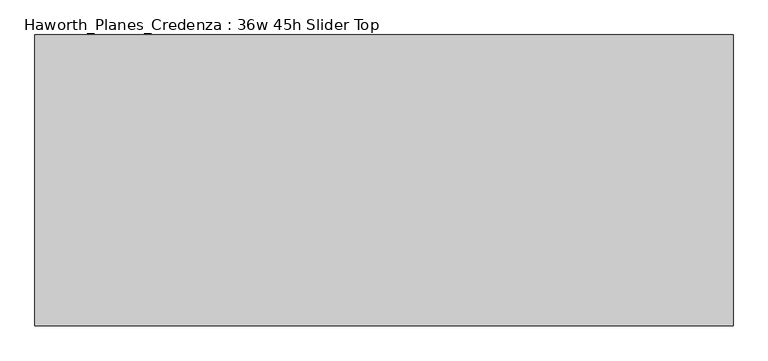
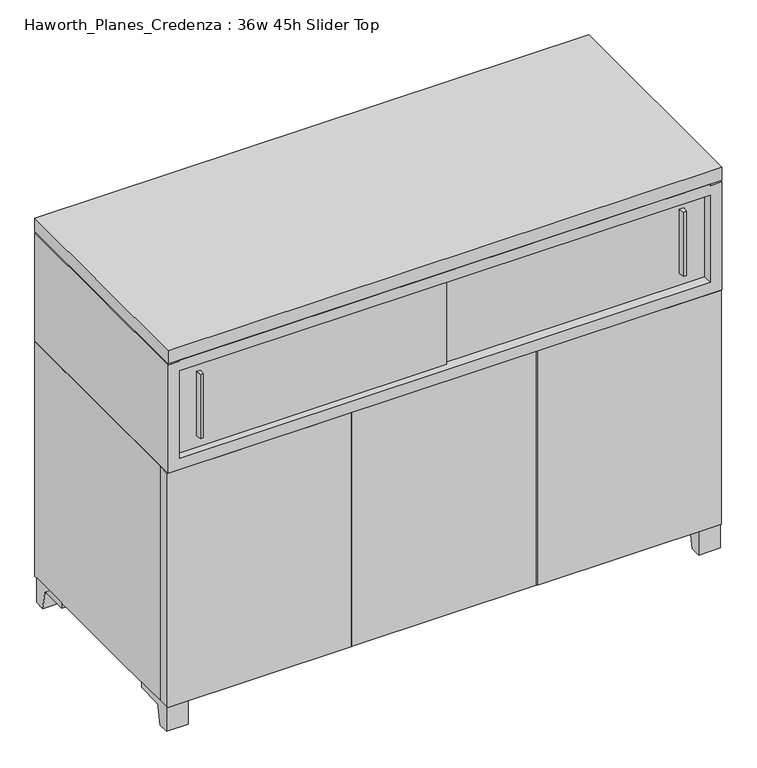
"""IFC4 building model written with IfcOpenShell, lengths in millimetres: furniture geometry, Haworth_Planes_Credenza : 36w 45h Slider Top."""

from ifc_helpers import new_model, si_unit, point, frame, frame_2d, origin, place, context, project, spatial, polyline, circle_curve, trimmed, segment, composite_curve, outline, extrude, faceted_brep, source, transform, mapped, element, save


def haworth_planes_credenza_36w_45h_slider_top_8a217daf(model_context):
    return source(origin(), model_context, "Body", "SolidModel", [
        extrude(outline(composite_curve([segment(polyline([(-368.5593029, 0.0), (-392.900956, 0.0), (-392.900956, 57.15), (-297.650956, 57.15), (-297.650956, 44.45), (-355.7717125, 44.45)]), True, "CONTINUOUS"), segment(trimmed(circle_curve(frame_2d((-355.7717125, 38.1)), 6.35), [point((-355.7717125, 44.45))], [point((-362.0353139, 39.1439336))], True, "CARTESIAN"), True, "CONTINUOUS"), segment(polyline([(-362.0353139, 39.1439336), (-368.5593029, 0.0)]), True, "CONTINUOUS")], self_intersect=False)), frame((877.5480475, 0.0, 0.0), z_axis=(1.0, 0.0, 0.0), x_axis=(0.0, 1.0, 0.0)), (0.0, 0.0, 1.0), 47.625),
        extrude(outline(composite_curve([segment(polyline([(78.0573909, 0.0), (71.533402, 39.1439336)]), True, "CONTINUOUS"), segment(trimmed(circle_curve(frame_2d((65.2698006, 38.1)), 6.35), [point((71.533402, 39.1439336))], [point((65.2698006, 44.45))], True, "CARTESIAN"), True, "CONTINUOUS"), segment(polyline([(65.2698006, 44.45), (7.149044, 44.45), (7.149044, 57.15), (102.399044, 57.15), (102.399044, 0.0), (78.0573909, 0.0)]), True, "CONTINUOUS")], self_intersect=False)), frame((877.5480475, 0.0, 0.0), z_axis=(1.0, 0.0, 0.0), x_axis=(0.0, 1.0, 0.0)), (0.0, 0.0, 1.0), 47.625),
        extrude(outline(composite_curve([segment(polyline([(-368.5593029, 0.0), (-392.900956, 0.0), (-392.900956, 57.15), (-297.650956, 57.15), (-297.650956, 44.45), (-355.7717125, 44.45)]), True, "CONTINUOUS"), segment(trimmed(circle_curve(frame_2d((-355.7717125, 38.1)), 6.35), [point((-355.7717125, 44.45))], [point((-362.0353139, 39.1439336))], True, "CARTESIAN"), True, "CONTINUOUS"), segment(polyline([(-362.0353139, 39.1439336), (-368.5593029, 0.0)]), True, "CONTINUOUS")], self_intersect=False)), frame((-294.0269525, 0.0, 0.0), z_axis=(1.0, 0.0, 0.0), x_axis=(0.0, 1.0, 0.0)), (0.0, 0.0, 1.0), 47.625),
        extrude(outline(composite_curve([segment(polyline([(78.0573909, 0.0), (71.533402, 39.1439336)]), True, "CONTINUOUS"), segment(trimmed(circle_curve(frame_2d((65.2698006, 38.1)), 6.35), [point((71.533402, 39.1439336))], [point((65.2698006, 44.45))], True, "CARTESIAN"), True, "CONTINUOUS"), segment(polyline([(65.2698006, 44.45), (7.149044, 44.45), (7.149044, 57.15), (102.399044, 57.15), (102.399044, 0.0), (78.0573909, 0.0)]), True, "CONTINUOUS")], self_intersect=False)), frame((-294.0269525, 0.0, 0.0), z_axis=(1.0, 0.0, 0.0), x_axis=(0.0, 1.0, 0.0)), (0.0, 0.0, 1.0), 47.625),
        extrude(outline(polyline([(517.9792975, -396.075956), (113.1667975, -396.075956), (113.1667975, -370.675956), (517.9792975, -370.675956), (517.9792975, -396.075956)])), frame((0.0, 0.0, 57.15), z_axis=(0.0, 0.0, 1.0), x_axis=(1.0, 0.0, 0.0)), (0.0, 0.0, 1.0), 544.5125),
        extrude(outline(polyline([(-294.0269525, -396.075956), (-294.0269525, -370.675956), (110.7855475, -370.675956), (110.7855475, -396.075956), (-294.0269525, -396.075956)])), frame((0.0, 0.0, 57.15), z_axis=(0.0, 0.0, 1.0), x_axis=(1.0, 0.0, 0.0)), (0.0, 0.0, 1.0), 544.5125),
        extrude(outline(polyline([(925.1730475, -396.075956), (520.3605475, -396.075956), (520.3605475, -370.675956), (925.1730475, -370.675956), (925.1730475, -396.075956)])), frame((0.0, 0.0, 57.15), z_axis=(0.0, 0.0, 1.0), x_axis=(1.0, 0.0, 0.0)), (0.0, 0.0, 1.0), 544.5125),
        extrude(outline(polyline([(852.1480478, -389.7259439), (845.7980471, -389.7259439), (844.2105486, -377.025956), (853.7355463, -377.025956), (852.1480478, -389.7259439)])), frame((0.0, 0.0, 657.225), z_axis=(0.0, 0.0, 1.0), x_axis=(1.0, 0.0, 0.0)), (0.0, 0.0, 1.0), 149.225),
        extrude(outline(polyline([(-214.6519522, -396.0759439), (-221.0019529, -396.0759439), (-222.5894514, -383.375956), (-213.0644537, -383.375956), (-214.6519522, -396.0759439)])), frame((0.0, 0.0, 657.225), z_axis=(0.0, 0.0, 1.0), x_axis=(1.0, 0.0, 0.0)), (0.0, 0.0, 1.0), 149.225),
        extrude(outline(polyline([(-268.6269525, -377.025956), (328.2730475, -377.025956), (328.2730475, -383.375956), (-268.6269525, -383.375956), (-268.6269525, -377.025956)])), frame((0.0, 0.0, 630.2375), z_axis=(0.0, 0.0, 1.0), x_axis=(1.0, 0.0, 0.0)), (0.0, 0.0, 1.0), 203.2),
        extrude(outline(polyline([(302.8730475, -370.675956), (899.7730475, -370.675956), (899.7730475, -377.025956), (302.8730475, -377.025956), (302.8730475, -370.675956)])), frame((0.0, 0.0, 630.2375), z_axis=(0.0, 0.0, 1.0), x_axis=(1.0, 0.0, 0.0)), (0.0, 0.0, 1.0), 203.2),
        faceted_brep([(-294.0269525, -370.675956, 601.6625), (-294.0269525, -370.675956, 57.15), (925.1730475, -370.675956, 57.15), (925.1730475, -370.675956, 601.6625), (899.7730475, -370.675956, 601.6625), (899.7730475, -370.675956, 604.8375), (-268.6269525, -370.675956, 604.8375), (-268.6269525, -370.675956, 601.6625), (-294.0269525, 108.749044, 601.6625), (925.1730475, 108.749044, 601.6625), (925.1730475, 108.749044, 57.15), (-294.0269525, 108.749044, 57.15), (-268.6269525, 83.349044, 601.6625), (899.7730475, 83.349044, 601.6625), (-268.6269525, 83.349044, 604.8375), (899.7730475, 83.349044, 604.8375)], [[[0, 1, 2, 3, 4, 5, 6, 7]], [[8, 9, 10, 11]], [[1, 0, 8, 11]], [[2, 1, 11, 10]], [[3, 2, 10, 9]], [[9, 8, 0, 7, 12, 13, 4, 3]], [[14, 15, 13, 12]], [[7, 6, 14, 12]], [[5, 4, 13, 15]], [[6, 5, 15, 14]]]),
        faceted_brep([(899.7730475, -399.250956, 858.8375), (-268.6269525, -399.250956, 858.8375), (-268.6269525, -399.250956, 855.6625), (-294.0269525, -399.250956, 855.6625), (-294.0269525, -399.250956, 604.8375), (925.1730475, -399.250956, 604.8375), (925.1730475, -399.250956, 855.6625), (899.7730475, -399.250956, 855.6625), (899.7730475, -399.250956, 833.4375), (899.7730475, -399.250956, 630.2375), (-268.6269525, -399.250956, 630.2375), (-268.6269525, -399.250956, 833.4375), (899.7730475, 83.349044, 858.8375), (899.7730475, 83.349044, 855.6625), (-268.6269525, 83.349044, 855.6625), (-268.6269525, 83.349044, 858.8375), (-294.0269525, 108.749044, 855.6625), (-294.0269525, 108.749044, 604.8375), (925.1730475, 108.749044, 604.8375), (925.1730475, 108.749044, 855.6625), (899.7730475, 83.349044, 833.4375), (899.7730475, 83.349044, 630.2375), (-268.6269525, 83.349044, 630.2375), (-268.6269525, 83.349044, 833.4375)], [[[0, 1, 2, 3, 4, 5, 6, 7], [8, 9, 10, 11]], [[12, 13, 14, 15]], [[1, 0, 12, 15]], [[4, 3, 16, 17]], [[5, 4, 17, 18]], [[6, 5, 18, 19]], [[9, 8, 20, 21]], [[10, 9, 21, 22]], [[11, 10, 22, 23]], [[8, 11, 23, 20]], [[21, 20, 23, 22]], [[19, 18, 17, 16]], [[2, 1, 15, 14]], [[16, 3, 2, 14, 13, 7, 6, 19]], [[0, 7, 13, 12]]]),
        extrude(outline(polyline([(925.1730475, 108.749044), (925.1730475, -399.250956), (-294.0269525, -399.250956), (-294.0269525, 108.749044), (925.1730475, 108.749044)])), frame((0.0, 0.0, 858.8375), z_axis=(0.0, 0.0, 1.0), x_axis=(1.0, 0.0, 0.0)), (0.0, 0.0, 1.0), 30.1625),
    ])


if __name__ == "__main__":
    model = new_model("IFC4")
    model_context = context("Model", 3, world=origin())
    ifc_project = project(units=[si_unit("LENGTHUNIT", "METRE", prefix="MILLI")], contexts=[model_context])
    site = spatial("IfcSite", under=ifc_project)
    building = spatial("IfcBuilding", under=site)
    placement = place(None, origin())
    haworth_planes_credenza_36w_45h_slider_top_shape = haworth_planes_credenza_36w_45h_slider_top_8a217daf(model_context)
    element("IfcFurniture", 1, ObjectType="Haworth_Planes_Credenza : 36w 45h Slider Top", at=placement, inside=building, context=model_context, shape_type="MappedRepresentation", body=[
        mapped(haworth_planes_credenza_36w_45h_slider_top_shape, transform((0.0, 0.0, 0.0), x_axis=(1.0, 0.0, 0.0), y_axis=(0.0, 1.0, 0.0), z_axis=(0.0, 0.0, 1.0))),
    ])
    save(model, "model.ifc")
